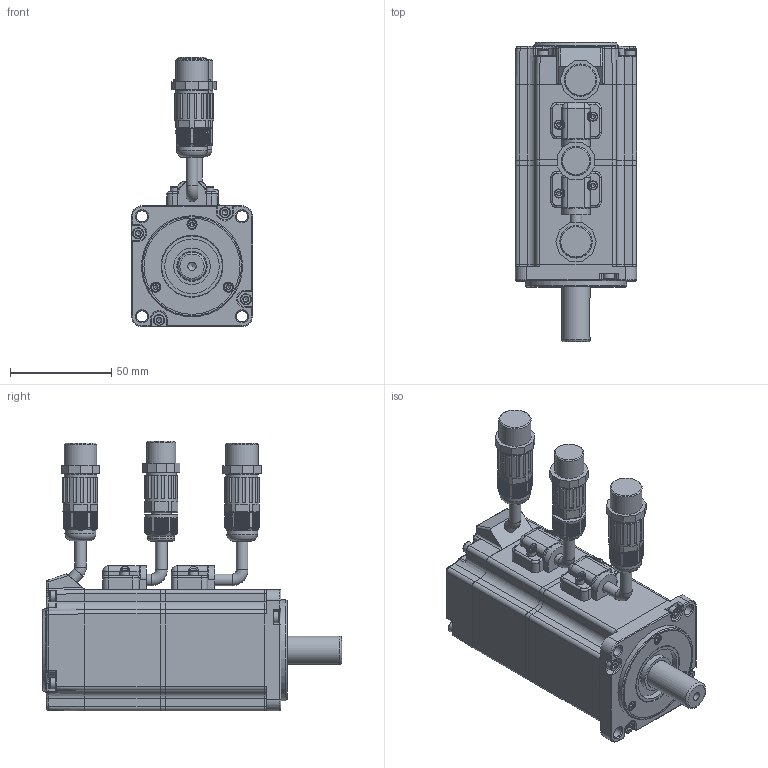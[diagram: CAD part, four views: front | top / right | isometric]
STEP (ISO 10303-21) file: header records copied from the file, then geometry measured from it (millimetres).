
FILE_DESCRIPTION(/* description */ (''),/* implementation_level */ '2;1');
FILE_NAME(/* name */ '60SY-M00630LCMS1-Z.stp',/* time_stamp */ '2024-01-04T11:06:15+08:00',/* author */ (''),/* organization */ (''),/* preprocessor_version */ 'ST-DEVELOPER v18.1',/* originating_system */ 'SIEMENS PLM Software NX 2000',/* authorisation */ '');
FILE_SCHEMA (('AUTOMOTIVE_DESIGN { 1 0 10303 214 3 1 1 1 }'));
Products named in the file (1): 磁编刹车
Bounding box: 60 x 148 x 133.49 mm (x, y, z)
Volume: 421731.7 mm3; surface area: 94276.7 mm2
Topology: 31 solids, 39 shells, 2704 faces, 7051 edges, 4450 vertices
Faces by surface type: plane 1910, cylinder 363, sphere 146, cone 141, torus 95, bspline 49
Full cylindrical faces by diameter (mm): 2.05 x3, 2.38 x7, 2.5 x10, 2.6 x4, 2.874 x8, 2.9 x3, 3.4 x4, 3.479 x4, 3.5 x8, 4.2 x1, 4.5 x7, 5 x3, 5.5 x12, 5.8 x8, 6 x1, 10 x1, 13 x2, 13.5 x1, 14 x1, 14.5 x1, 14.8 x1, 15 x2, 15.3 x2, 15.6 x2, 16 x2, 16.1 x2, 16.5 x2, 17.3 x2, 18 x1, 22.5 x1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
Entity records: 83201 total; most frequent: CARTESIAN_POINT 20944, ORIENTED_EDGE 13532, DIRECTION 11461, EDGE_CURVE 6766, VERTEX_POINT 4395, AXIS2_PLACEMENT_3D 3881, LINE 3699, VECTOR 3699
